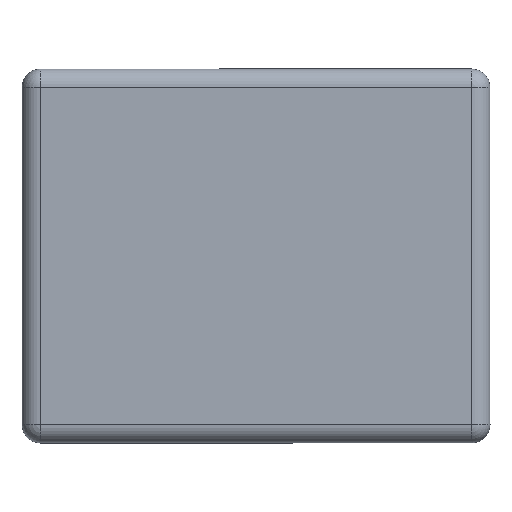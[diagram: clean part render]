
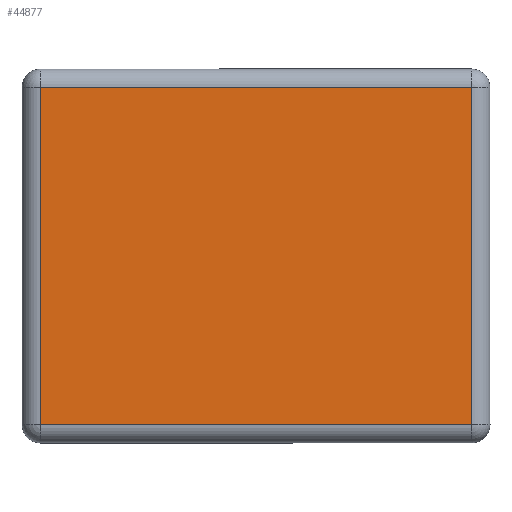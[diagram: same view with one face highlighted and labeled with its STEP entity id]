
A CAD part, front view. The second image highlights one B-rep face of the part: STEP entity #44877.
In plain terms, the highlighted planar face has unit normal (0, -1, 0) as drawn and (0, 1, 0) by its records, which use the part's own axes.
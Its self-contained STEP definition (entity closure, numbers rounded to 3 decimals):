
#44877 = ADVANCED_FACE ( 'NONE', ( #107688 ), #107683, .T. ) ;
#44878 = EDGE_LOOP ( 'NONE', ( #45084, #44949, #44955, #44963 ) ) ;
#44880 = VERTEX_POINT ( 'NONE', #107678 ) ;
#44949 = ORIENTED_EDGE ( 'NONE', *, *, #44952, .T. ) ;
#44952 = EDGE_CURVE ( 'NONE', #45089, #44953, #107761, .T. ) ;
#44953 = VERTEX_POINT ( 'NONE', #107757 ) ;
#44955 = ORIENTED_EDGE ( 'NONE', *, *, #44958, .T. ) ;
#44958 = EDGE_CURVE ( 'NONE', #44953, #44959, #107756, .T. ) ;
#44959 = VERTEX_POINT ( 'NONE', #107752 ) ;
#44963 = ORIENTED_EDGE ( 'NONE', *, *, #44965, .T. ) ;
#44965 = EDGE_CURVE ( 'NONE', #44959, #44880, #107818, .T. ) ;
#45084 = ORIENTED_EDGE ( 'NONE', *, *, #45086, .T. ) ;
#45086 = EDGE_CURVE ( 'NONE', #44880, #45089, #107906, .T. ) ;
#45089 = VERTEX_POINT ( 'NONE', #107947 ) ;
#107678 = CARTESIAN_POINT ( 'NONE',  ( 48.8, 10.78, -38.6 ) ) ;
#107679 = DIRECTION ( 'NONE',  ( 0., 0., 1. ) ) ;
#107680 = DIRECTION ( 'NONE',  ( 0., 1., 0. ) ) ;
#107681 = AXIS2_PLACEMENT_3D ( 'NONE', #107682, #107680, #107679 ) ;
#107682 = CARTESIAN_POINT ( 'NONE',  ( 2., 10.78, -38.6 ) ) ;
#107683 = PLANE ( 'NONE',  #107681 ) ;
#107688 = FACE_OUTER_BOUND ( 'NONE', #44878, .T. ) ;
#107752 = CARTESIAN_POINT ( 'NONE',  ( 48.8, 10.78, -2. ) ) ;
#107753 = DIRECTION ( 'NONE',  ( 1., 0., 0. ) ) ;
#107754 = VECTOR ( 'NONE', #107753, 1000. ) ;
#107755 = CARTESIAN_POINT ( 'NONE',  ( 48.8, 10.78, -2. ) ) ;
#107756 = LINE ( 'NONE', #107755, #107754 ) ;
#107757 = CARTESIAN_POINT ( 'NONE',  ( 2., 10.78, -2. ) ) ;
#107758 = DIRECTION ( 'NONE',  ( 0., 0., 1. ) ) ;
#107759 = VECTOR ( 'NONE', #107758, 1000. ) ;
#107760 = CARTESIAN_POINT ( 'NONE',  ( 2., 10.78, -2. ) ) ;
#107761 = LINE ( 'NONE', #107760, #107759 ) ;
#107815 = DIRECTION ( 'NONE',  ( 0., 0., -1. ) ) ;
#107816 = VECTOR ( 'NONE', #107815, 1000. ) ;
#107817 = CARTESIAN_POINT ( 'NONE',  ( 48.8, 10.78, -38.6 ) ) ;
#107818 = LINE ( 'NONE', #107817, #107816 ) ;
#107903 = DIRECTION ( 'NONE',  ( -1., 0., 0. ) ) ;
#107904 = VECTOR ( 'NONE', #107903, 1000. ) ;
#107905 = CARTESIAN_POINT ( 'NONE',  ( 2., 10.78, -38.6 ) ) ;
#107906 = LINE ( 'NONE', #107905, #107904 ) ;
#107947 = CARTESIAN_POINT ( 'NONE',  ( 2., 10.78, -38.6 ) ) ;
